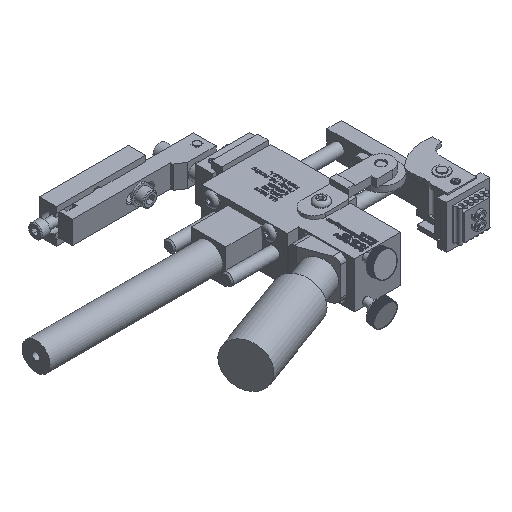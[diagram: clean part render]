
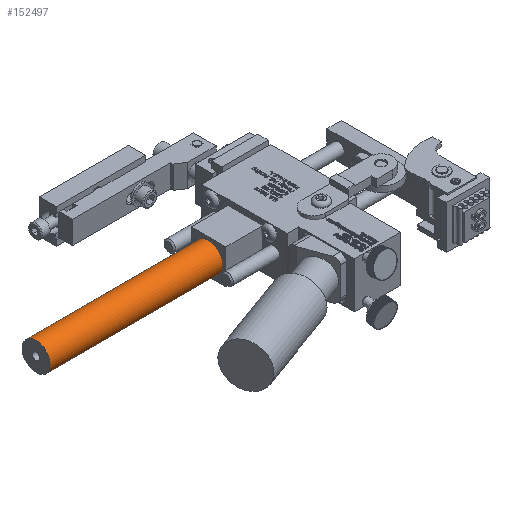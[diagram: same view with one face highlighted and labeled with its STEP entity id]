
A CAD part, isometric view. The second image highlights one B-rep face of the part: STEP entity #152497.
In plain terms, the highlighted cylindrical face has radius 7.747 mm (diameter 15.494 mm), a full revolution.
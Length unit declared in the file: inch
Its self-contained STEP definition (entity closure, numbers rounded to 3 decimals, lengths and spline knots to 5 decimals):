
#152470=CARTESIAN_POINT('',(0.2202,0.36387,0.375));
#152471=DIRECTION('',(1.0,0.,0.0));
#152472=DIRECTION('',(0.0,0.0,1.0));
#152473=AXIS2_PLACEMENT_3D('',#152470,#152471,#152472);
#152474=CYLINDRICAL_SURFACE('',#152473,0.305);
#152475=CARTESIAN_POINT('',(3.9702,0.36387,0.07));
#152476=VERTEX_POINT('',#152475);
#152477=CARTESIAN_POINT('',(3.9702,0.36387,0.375));
#152478=DIRECTION('',(-1.0,0.0,0.0));
#152479=DIRECTION('',(0.0,0.0,1.0));
#152480=AXIS2_PLACEMENT_3D('',#152477,#152478,#152479);
#152481=CIRCLE('',#152480,0.305);
#152482=EDGE_CURVE('',#152476,#152476,#152481,.T.);
#152483=ORIENTED_EDGE('',*,*,#152482,.T.);
#152484=EDGE_LOOP('',(#152483));
#152485=FACE_OUTER_BOUND('',#152484,.T.);
#152486=CARTESIAN_POINT('',(0.2202,0.36387,0.07));
#152487=VERTEX_POINT('',#152486);
#152488=CARTESIAN_POINT('',(0.2202,0.36387,0.375));
#152489=DIRECTION('',(-1.0,0.0,0.0));
#152490=DIRECTION('',(0.0,0.0,1.0));
#152491=AXIS2_PLACEMENT_3D('',#152488,#152489,#152490);
#152492=CIRCLE('',#152491,0.305);
#152493=EDGE_CURVE('',#152487,#152487,#152492,.T.);
#152494=ORIENTED_EDGE('',*,*,#152493,.F.);
#152495=EDGE_LOOP('',(#152494));
#152496=FACE_BOUND('',#152495,.T.);
#152497=ADVANCED_FACE('',(#152485,#152496),#152474,.T.);
